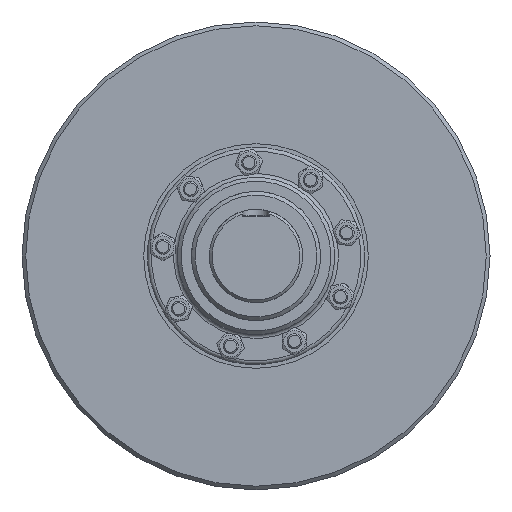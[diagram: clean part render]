
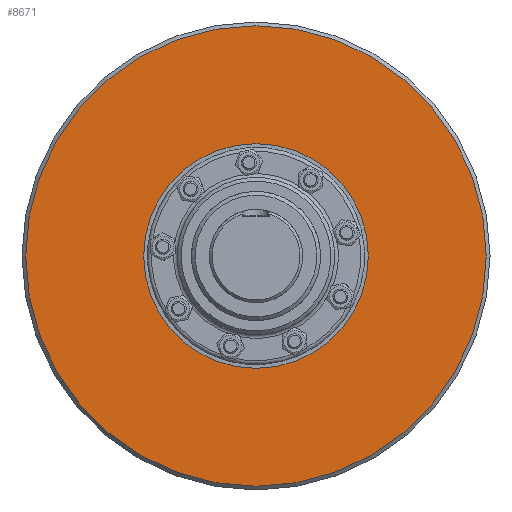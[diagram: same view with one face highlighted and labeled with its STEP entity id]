
A CAD part, left-side view. The second image highlights one B-rep face of the part: STEP entity #8671.
In plain terms, the highlighted planar face has unit normal (-1, 0, 0).
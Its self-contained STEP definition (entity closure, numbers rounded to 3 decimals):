
#1447=FACE_BOUND('',#2828,.T.);
#2008=FACE_OUTER_BOUND('',#2827,.T.);
#2827=EDGE_LOOP('',(#7022));
#2828=EDGE_LOOP('',(#7023));
#3300=CIRCLE('',#9410,60.);
#3361=CIRCLE('',#9587,123.);
#3956=VERTEX_POINT('',#14183);
#4113=VERTEX_POINT('',#14869);
#4908=EDGE_CURVE('',#3956,#3956,#3300,.T.);
#5121=EDGE_CURVE('',#4113,#4113,#3361,.T.);
#7022=ORIENTED_EDGE('',*,*,#5121,.F.);
#7023=ORIENTED_EDGE('',*,*,#4908,.T.);
#7574=PLANE('',#9586);
#8671=ADVANCED_FACE('',(#2008,#1447),#7574,.F.);
#9410=AXIS2_PLACEMENT_3D('',#14184,#11184,#11185);
#9586=AXIS2_PLACEMENT_3D('',#14868,#11632,#11633);
#9587=AXIS2_PLACEMENT_3D('',#14870,#11634,#11635);
#11184=DIRECTION('center_axis',(1.,0.,0.));
#11185=DIRECTION('ref_axis',(0.,0.,
1.));
#11632=DIRECTION('center_axis',(1.,0.,0.));
#11633=DIRECTION('ref_axis',(0.,1.,0.));
#11634=DIRECTION('center_axis',(1.,0.,0.));
#11635=DIRECTION('ref_axis',(0.,-1.,0.));
#14183=CARTESIAN_POINT('',(-36.,0.,60.));
#14184=CARTESIAN_POINT('Origin',(-36.,0.,
0.));
#14868=CARTESIAN_POINT('Origin',(-36.,210.485,0.));
#14869=CARTESIAN_POINT('',(-36.,123.,0.));
#14870=CARTESIAN_POINT('Origin',(-36.,0.,0.));
